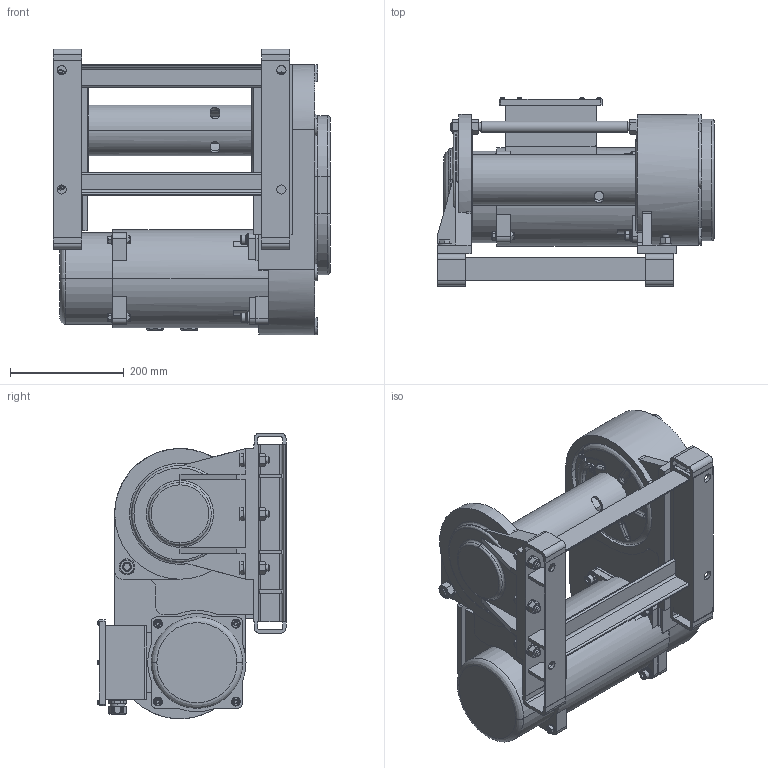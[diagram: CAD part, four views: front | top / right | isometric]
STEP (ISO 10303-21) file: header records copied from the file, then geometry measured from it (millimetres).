
FILE_DESCRIPTION( (''), '2;1');
FILE_NAME ('BMW-501.stp','2023-05-15T16:33:25',(''),(''),'spGate 19.8.2 (****-****-****-****)','','');
FILE_SCHEMA (('AUTOMOTIVE_DESIGN'));
Length unit declared in the file: millimetre
Products named in the file (4): Assembly; BMW-501-prt0; BMW-501-prt1; BMW-501-prt2
Assembly tree (3 placements, depth 2):
  Assembly
    BMW-501-prt0
    BMW-501-prt1
    BMW-501-prt2
Bounding box: 489 x 332.74 x 502.8 mm (x, y, z)
Volume: 25061575 mm3; surface area: 1571635.2 mm2
Topology: 3 solids, 3 shells, 2201 faces, 5732 edges, 3582 vertices
Faces by surface type: plane 1224, cylinder 576, bspline 321, sphere 80
Entity records: 118783 total; most frequent: CARTESIAN_POINT 21513, ORIENTED_EDGE 11312, DIRECTION 10621, COLOUR_RGB 7860, PRESENTATION_STYLE_ASSIGNMENT 7860, STYLED_ITEM 7860, EDGE_CURVE 5656, DRAUGHTING_PRE_DEFINED_CURVE_FONT 5656
